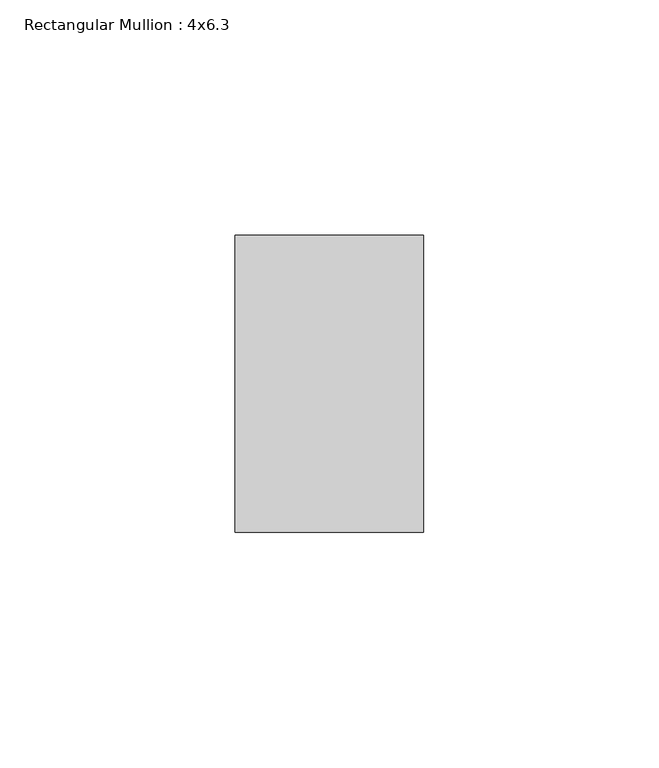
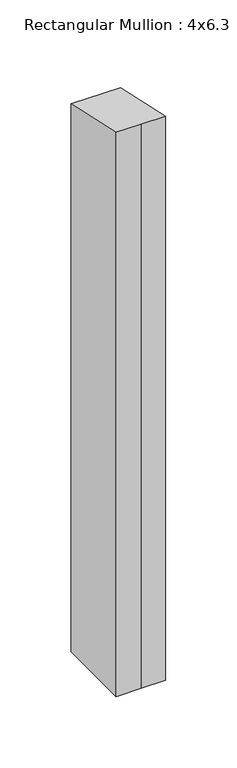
"""IFC4 building model written with IfcOpenShell, lengths in millimetres: member geometry, Rectangular Mullion : 4x6.3."""

from ifc_helpers import new_model, si_unit, origin, place, context, project, spatial, faceted_brep, source, transform, mapped, element, save


def rectangular_mullion_4x6_3_c7eaf067(model_context):
    return source(origin(), model_context, "Body", "Brep", [
        faceted_brep([(-20.0, 20.0, -487.1314142), (-20.0, 83.0, -487.1314142), (20.0, 83.0, -487.1314142), (20.0, 20.0, -487.1314142), (0.0, 20.0, -487.1314142), (0.0, 20.0, -4.3995804), (-20.0, 20.0, -4.3995804), (20.0, 20.0, -4.3995804), (20.0, 83.0, -18.2582585), (-20.0, 83.0, -18.2582585)], [[[0, 1, 2, 3, 4]], [[5, 6, 0, 4]], [[7, 5, 4, 3]], [[8, 7, 3, 2]], [[9, 8, 2, 1]], [[6, 9, 1, 0]], [[6, 5, 7, 8, 9]]]),
    ])


if __name__ == "__main__":
    model = new_model("IFC4")
    model_context = context("Model", 3, world=origin())
    ifc_project = project(units=[si_unit("LENGTHUNIT", "METRE", prefix="MILLI")], contexts=[model_context])
    site = spatial("IfcSite", under=ifc_project)
    building = spatial("IfcBuilding", under=site)
    placement = place(None, origin())
    rectangular_mullion_4x6_3_shape = rectangular_mullion_4x6_3_c7eaf067(model_context)
    element("IfcMember", 1, ObjectType="Rectangular Mullion : 4x6.3", at=placement, inside=building, context=model_context, shape_type="MappedRepresentation", body=[
        mapped(rectangular_mullion_4x6_3_shape, transform((0.0, 0.0, 0.0), x_axis=(1.0, 0.0, 0.0), y_axis=(0.0, 1.0, 0.0), z_axis=(0.0, 0.0, 1.0))),
    ])
    save(model, "model.ifc")
